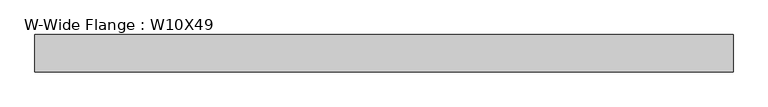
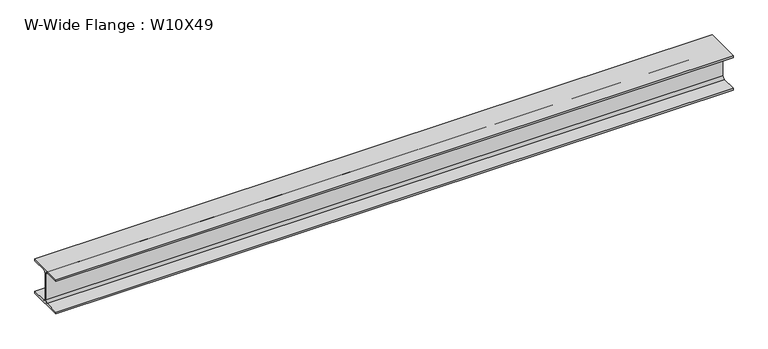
"""IFC4 building model written with IfcOpenShell, lengths in millimetres: beam geometry, W-Wide Flange : W10X49."""

from ifc_helpers import new_model, si_unit, point, frame, frame_2d, origin, place, context, project, spatial, polyline, circle_curve, trimmed, segment, composite_curve, outline, extrude, source, transform, mapped, element, save


def w_wide_flange_w10x49_8d358260(model_context):
    return source(origin(), model_context, "Body", "SweptSolid", [
        extrude(outline(composite_curve([segment(polyline([(127.0, -112.776), (127.0, -127.0), (-127.0, -127.0), (-127.0, -112.776), (-21.844, -112.776)]), True, "CONTINUOUS"), segment(trimmed(circle_curve(frame_2d((-21.844, -95.25)), 17.526), [point((-21.844, -112.776))], [point((-4.318, -95.25))], True, "CARTESIAN"), True, "CONTINUOUS"), segment(polyline([(-4.318, -95.25), (-4.318, 95.25)]), True, "CONTINUOUS"), segment(trimmed(circle_curve(frame_2d((-21.844, 95.25)), 17.526), [point((-4.318, 95.25))], [point((-21.844, 112.776))], True, "CARTESIAN"), True, "CONTINUOUS"), segment(polyline([(-21.844, 112.776), (-127.0, 112.776), (-127.0, 127.0), (127.0, 127.0), (127.0, 112.776), (21.844, 112.776)]), True, "CONTINUOUS"), segment(trimmed(circle_curve(frame_2d((21.844, 95.25)), 17.526), [point((21.844, 112.776))], [point((4.318, 95.25))], True, "CARTESIAN"), True, "CONTINUOUS"), segment(polyline([(4.318, 95.25), (4.318, -95.25)]), True, "CONTINUOUS"), segment(trimmed(circle_curve(frame_2d((21.844, -95.25)), 17.526), [point((4.318, -95.25))], [point((21.844, -112.776))], True, "CARTESIAN"), True, "CONTINUOUS"), segment(polyline([(21.844, -112.776), (127.0, -112.776)]), True, "CONTINUOUS")], self_intersect=False)), frame((-2340.5193905, 0.0, 0.0), z_axis=(1.0, 0.0, 0.0), x_axis=(0.0, 1.0, 0.0)), (0.0, 0.0, 1.0), 4725.406181),
    ])


if __name__ == "__main__":
    model = new_model("IFC4")
    model_context = context("Model", 3, world=origin())
    ifc_project = project(units=[si_unit("LENGTHUNIT", "METRE", prefix="MILLI")], contexts=[model_context])
    site = spatial("IfcSite", under=ifc_project)
    building = spatial("IfcBuilding", under=site)
    placement = place(None, origin())
    w_wide_flange_w10x49_shape = w_wide_flange_w10x49_8d358260(model_context)
    element("IfcBeam", 1, ObjectType="W-Wide Flange : W10X49", at=placement, inside=building, context=model_context, shape_type="MappedRepresentation", body=[
        mapped(w_wide_flange_w10x49_shape, transform((0.0, 0.0, 0.0), x_axis=(1.0, 0.0, 0.0), y_axis=(0.0, 1.0, 0.0), z_axis=(0.0, 0.0, 1.0))),
    ])
    save(model, "model.ifc")
